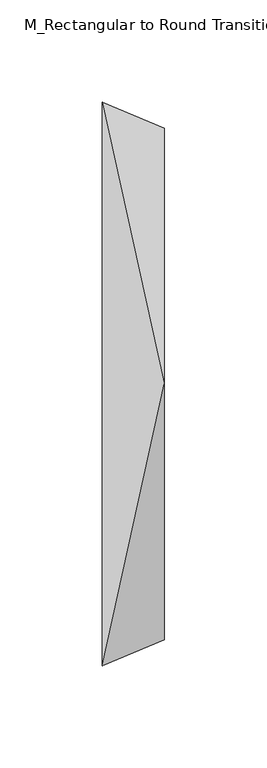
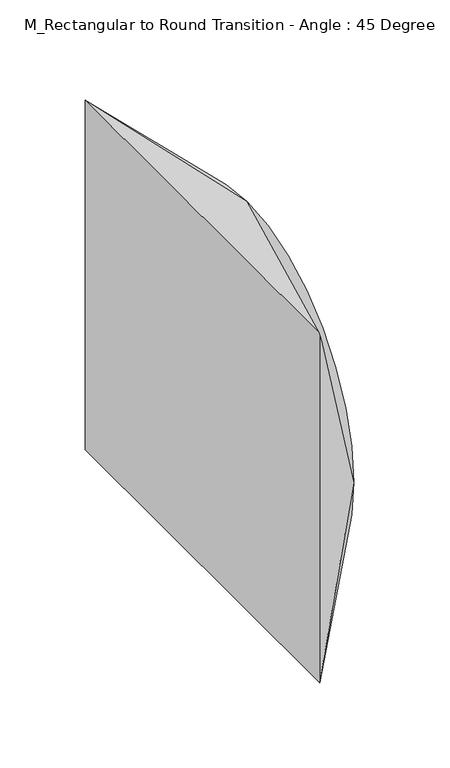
"""IFC4 building model written with IfcOpenShell, lengths in millimetres: duct fitting geometry, M_Rectangular to Round Transition - Angle : 45 Degree."""

from ifc_helpers import new_model, si_unit, frame, origin, place, context, project, spatial, circle_curve, source, transform, mapped, element, save
from ifc_brep_helpers import plane_surface, spline_surface, advanced_brep


def m_rectangular_to_round_transition_angle_45_degree_e507fccd(model_context):
    return source(origin(), model_context, "Body", "AdvancedBrep", [
        advanced_brep(
        [(0.0, -137.5, -125.0), (0.0, -137.5, 125.0), (0.0, 137.5, 125.0), (0.0, 137.5, -125.0), (30.1776695, -125.0, 0.0), (30.1776695, 0.0, -125.0), (30.1776695, 125.0, 0.0), (30.1776695, 0.0, 125.0)],
        [
            (0, 1),
            (1, 2),
            (2, 3),
            (3, 0),
            (4, 5, circle_curve(frame((30.1776695, 0.0, 0.0), z_axis=(1.0, 0.0, 0.0), x_axis=(0.0, -1.0, 0.0)), 125.0)),
            (5, 6, circle_curve(frame((30.1776695, 0.0, 0.0), z_axis=(1.0, 0.0, 0.0), x_axis=(0.0, -1.0, 0.0)), 125.0)),
            (6, 7, circle_curve(frame((30.1776695, 0.0, 0.0), z_axis=(1.0, 0.0, 0.0), x_axis=(0.0, -1.0, 0.0)), 125.0)),
            (7, 4, circle_curve(frame((30.1776695, 0.0, 0.0), z_axis=(1.0, 0.0, 0.0), x_axis=(0.0, -1.0, 0.0)), 125.0)),
            (0, 4),
            (4, 1),
            (7, 1),
            (7, 2),
            (6, 2),
            (6, 3),
            (5, 3),
            (5, 0),
        ],
        [
            plane_surface(frame((0.0, 0.0, 0.0), z_axis=(-1.0, 0.0, 0.0), x_axis=(0.0, 1.0, 0.0))),
            plane_surface(frame((30.1776695, 0.0, 0.0), z_axis=(1.0, 0.0, 0.0), x_axis=(0.0, 1.0, 0.0))),
            plane_surface(frame((30.1776695, -125.0, 0.0), z_axis=(0.3826834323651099, -0.9238795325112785, 0.0), x_axis=(0.0, 0.0, 1.0))),
            spline_surface(2, 1, [[(30.1776695, -125.0, 0.0), (0.0, -137.5, 125.0)], [(30.1776695, -125.0, 125.0), (0.0, -137.5, 125.0)], [(30.1776695, 0.0, 125.0), (0.0, -137.5, 125.0)]], [3, 3], [2, 2], [0.0, 1.0], [0.0, 1.0], weights=[[1.0, 1.0], [0.7071067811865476, 0.7071067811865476], [1.0, 1.0]]),
            plane_surface(frame((30.1776695, 0.0, 125.0), z_axis=(0.0, 0.0, 1.0), x_axis=(0.0, 1.0, 0.0))),
            spline_surface(2, 1, [[(30.1776695, 0.0, 125.0), (0.0, 137.5, 125.0)], [(30.1776695, 125.0, 125.0), (0.0, 137.5, 125.0)], [(30.1776695, 125.0, 0.0), (0.0, 137.5, 125.0)]], [3, 3], [2, 2], [0.0, 1.0], [0.0, 1.0], weights=[[1.0, 1.0], [0.7071067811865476, 0.7071067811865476], [1.0, 1.0]]),
            plane_surface(frame((30.1776695, 125.0, 0.0), z_axis=(0.38268343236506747, 0.9238795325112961, 0.0), x_axis=(0.0, 0.0, -1.0))),
            spline_surface(2, 1, [[(30.1776695, 125.0, 0.0), (0.0, 137.5, -125.0)], [(30.1776695, 125.0, -125.0), (0.0, 137.5, -125.0)], [(30.1776695, 0.0, -125.0), (0.0, 137.5, -125.0)]], [3, 3], [2, 2], [0.0, 1.0], [0.0, 1.0], weights=[[1.0, 1.0], [0.7071067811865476, 0.7071067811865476], [1.0, 1.0]]),
            plane_surface(frame((30.1776695, 0.0, -125.0), z_axis=(0.0, 0.0, -1.0), x_axis=(0.0, -1.0, 0.0))),
            spline_surface(2, 1, [[(30.1776695, 0.0, -125.0), (0.0, -137.5, -125.0)], [(30.1776695, -125.0, -125.0), (0.0, -137.5, -125.0)], [(30.1776695, -125.0, 0.0), (0.0, -137.5, -125.0)]], [3, 3], [2, 2], [0.0, 1.0], [0.0, 1.0], weights=[[1.0, 1.0], [0.7071067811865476, 0.7071067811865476], [1.0, 1.0]]),
        ],
        [
            (0, [[1, 2, 3, 4]]),
            (1, [[5, 6, 7, 8]]),
            (2, [[-1, 9, 10]]),
            (3, [[-8, 11, -10]]),
            (4, [[-2, -11, 12]]),
            (5, [[-7, 13, -12]]),
            (6, [[-3, -13, 14]]),
            (7, [[-6, 15, -14]]),
            (8, [[-4, -15, 16]]),
            (9, [[-5, -9, -16]]),
        ],
    ),
        advanced_brep(
        [(0.0, -137.5, -125.0), (0.0, -137.5, 125.0), (0.0, 137.5, 125.0), (0.0, 137.5, -125.0), (30.1776695, -125.0, 0.0), (30.1776695, 0.0, -125.0), (30.1776695, 125.0, 0.0), (30.1776695, 0.0, 125.0)],
        [
            (0, 1),
            (1, 2),
            (2, 3),
            (3, 0),
            (4, 5, circle_curve(frame((30.1776695, 0.0, 0.0), z_axis=(1.0, 0.0, 0.0), x_axis=(0.0, -1.0, 0.0)), 125.0)),
            (5, 6, circle_curve(frame((30.1776695, 0.0, 0.0), z_axis=(1.0, 0.0, 0.0), x_axis=(0.0, -1.0, 0.0)), 125.0)),
            (6, 7, circle_curve(frame((30.1776695, 0.0, 0.0), z_axis=(1.0, 0.0, 0.0), x_axis=(0.0, -1.0, 0.0)), 125.0)),
            (7, 4, circle_curve(frame((30.1776695, 0.0, 0.0), z_axis=(1.0, 0.0, 0.0), x_axis=(0.0, -1.0, 0.0)), 125.0)),
            (0, 4),
            (4, 1),
            (7, 1),
            (7, 2),
            (6, 2),
            (6, 3),
            (5, 3),
            (5, 0),
        ],
        [
            plane_surface(frame((0.0, 0.0, 0.0), z_axis=(-1.0, 0.0, 0.0), x_axis=(0.0, 1.0, 0.0))),
            plane_surface(frame((30.1776695, 0.0, 0.0), z_axis=(1.0, 0.0, 0.0), x_axis=(0.0, 1.0, 0.0))),
            plane_surface(frame((30.1776695, -125.0, 0.0), z_axis=(0.3826834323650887, -0.9238795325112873, 0.0), x_axis=(0.0, 0.0, 1.0))),
            spline_surface(2, 1, [[(30.1776695, -125.0, 0.0), (0.0, -137.5, 125.0)], [(30.1776695, -125.0, 125.0), (0.0, -137.5, 125.0)], [(30.1776695, 0.0, 125.0), (0.0, -137.5, 125.0)]], [3, 3], [2, 2], [0.0, 1.0], [0.0, 1.0], weights=[[1.0, 1.0], [0.7071067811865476, 0.7071067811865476], [1.0, 1.0]]),
            plane_surface(frame((30.1776695, 0.0, 125.0), z_axis=(0.0, 0.0, 1.0), x_axis=(0.0, 1.0, 0.0))),
            spline_surface(2, 1, [[(30.1776695, 0.0, 125.0), (0.0, 137.5, 125.0)], [(30.1776695, 125.0, 125.0), (0.0, 137.5, 125.0)], [(30.1776695, 125.0, 0.0), (0.0, 137.5, 125.0)]], [3, 3], [2, 2], [0.0, 1.0], [0.0, 1.0], weights=[[1.0, 1.0], [0.7071067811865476, 0.7071067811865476], [1.0, 1.0]]),
            plane_surface(frame((30.1776695, 125.0, 0.0), z_axis=(0.38268343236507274, 0.9238795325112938, 0.0), x_axis=(0.0, 0.0, -1.0))),
            spline_surface(2, 1, [[(30.1776695, 125.0, 0.0), (0.0, 137.5, -125.0)], [(30.1776695, 125.0, -125.0), (0.0, 137.5, -125.0)], [(30.1776695, 0.0, -125.0), (0.0, 137.5, -125.0)]], [3, 3], [2, 2], [0.0, 1.0], [0.0, 1.0], weights=[[1.0, 1.0], [0.7071067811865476, 0.7071067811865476], [1.0, 1.0]]),
            plane_surface(frame((30.1776695, 0.0, -125.0), z_axis=(0.0, 0.0, -1.0), x_axis=(0.0, -1.0, 0.0))),
            spline_surface(2, 1, [[(30.1776695, 0.0, -125.0), (0.0, -137.5, -125.0)], [(30.1776695, -125.0, -125.0), (0.0, -137.5, -125.0)], [(30.1776695, -125.0, 0.0), (0.0, -137.5, -125.0)]], [3, 3], [2, 2], [0.0, 1.0], [0.0, 1.0], weights=[[1.0, 1.0], [0.7071067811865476, 0.7071067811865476], [1.0, 1.0]]),
        ],
        [
            (0, [[1, 2, 3, 4]]),
            (1, [[5, 6, 7, 8]]),
            (2, [[-1, 9, 10]]),
            (3, [[-8, 11, -10]]),
            (4, [[-2, -11, 12]]),
            (5, [[-7, 13, -12]]),
            (6, [[-3, -13, 14]]),
            (7, [[-6, 15, -14]]),
            (8, [[-4, -15, 16]]),
            (9, [[-5, -9, -16]]),
        ],
    ),
        advanced_brep(
        [(30.1776695, 0.0, 125.0), (30.1776695, -125.0, 0.0), (30.1776695, 0.0, -125.0), (30.1776695, 125.0, 0.0), (0.0, -137.5, 125.0), (0.0, 137.5, 125.0), (0.0, 137.5, -125.0), (0.0, -137.5, -125.0)],
        [
            (0, 1, circle_curve(frame((30.1776695, 0.0, 0.0), z_axis=(1.0, 0.0, 0.0), x_axis=(0.0, 1.0, 0.0)), 125.0)),
            (1, 2, circle_curve(frame((30.1776695, 0.0, 0.0), z_axis=(1.0, 0.0, 0.0), x_axis=(0.0, 1.0, 0.0)), 125.0)),
            (2, 3, circle_curve(frame((30.1776695, 0.0, 0.0), z_axis=(1.0, 0.0, 0.0), x_axis=(0.0, 1.0, 0.0)), 125.0)),
            (3, 0, circle_curve(frame((30.1776695, 0.0, 0.0), z_axis=(1.0, 0.0, 0.0), x_axis=(0.0, 1.0, 0.0)), 125.0)),
            (4, 5),
            (5, 6),
            (6, 7),
            (7, 4),
            (0, 4),
            (4, 1),
            (7, 1),
            (7, 2),
            (6, 2),
            (6, 3),
            (5, 3),
            (5, 0),
        ],
        [
            plane_surface(frame((30.1776695, 0.0, 0.0), z_axis=(1.0, 0.0, 0.0), x_axis=(0.0, 0.0, -1.0))),
            plane_surface(frame((0.0, 0.0, 0.0), z_axis=(-1.0, 0.0, 0.0), x_axis=(0.0, 0.0, -1.0))),
            spline_surface(2, 1, [[(0.0, -137.5, 125.0), (30.1776695, 0.0, 125.0)], [(0.0, -137.5, 125.0), (30.1776695, -125.0, 125.0)], [(0.0, -137.5, 125.0), (30.1776695, -125.0, 0.0)]], [3, 3], [2, 2], [0.0, 1.0], [0.0, 1.0], weights=[[1.0, 1.0], [0.7071067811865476, 0.7071067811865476], [1.0, 1.0]]),
            plane_surface(frame((0.0, -137.5, 0.0), z_axis=(0.38268343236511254, -0.9238795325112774, 0.0), x_axis=(0.0, 0.0, -1.0))),
            spline_surface(2, 1, [[(0.0, -137.5, -125.0), (30.1776695, -125.0, 0.0)], [(0.0, -137.5, -125.0), (30.1776695, -125.0, -125.0)], [(0.0, -137.5, -125.0), (30.1776695, 0.0, -125.0)]], [3, 3], [2, 2], [0.0, 1.0], [0.0, 1.0], weights=[[1.0, 1.0], [0.7071067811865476, 0.7071067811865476], [1.0, 1.0]]),
            plane_surface(frame((0.0, 0.0, -125.0), z_axis=(0.0, 0.0, -1.0), x_axis=(0.0, 1.0, 0.0))),
            spline_surface(2, 1, [[(0.0, 137.5, -125.0), (30.1776695, 0.0, -125.0)], [(0.0, 137.5, -125.0), (30.1776695, 125.0, -125.0)], [(0.0, 137.5, -125.0), (30.1776695, 125.0, 0.0)]], [3, 3], [2, 2], [0.0, 1.0], [0.0, 1.0], weights=[[1.0, 1.0], [0.7071067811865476, 0.7071067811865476], [1.0, 1.0]]),
            plane_surface(frame((0.0, 137.5, 0.0), z_axis=(0.38268343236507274, 0.9238795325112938, 0.0), x_axis=(0.0, 0.0, 1.0))),
            spline_surface(2, 1, [[(0.0, 137.5, 125.0), (30.1776695, 125.0, 0.0)], [(0.0, 137.5, 125.0), (30.1776695, 125.0, 125.0)], [(0.0, 137.5, 125.0), (30.1776695, 0.0, 125.0)]], [3, 3], [2, 2], [0.0, 1.0], [0.0, 1.0], weights=[[1.0, 1.0], [0.7071067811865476, 0.7071067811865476], [1.0, 1.0]]),
            plane_surface(frame((0.0, 0.0, 125.0), z_axis=(0.0, 0.0, 1.0), x_axis=(0.0, -1.0, 0.0))),
        ],
        [
            (0, [[1, 2, 3, 4]]),
            (1, [[5, 6, 7, 8]]),
            (2, [[-1, 9, 10]]),
            (3, [[-8, 11, -10]]),
            (4, [[-2, -11, 12]]),
            (5, [[-7, 13, -12]]),
            (6, [[-3, -13, 14]]),
            (7, [[-6, 15, -14]]),
            (8, [[-4, -15, 16]]),
            (9, [[-5, -9, -16]]),
        ],
    ),
    ])


if __name__ == "__main__":
    model = new_model("IFC4")
    model_context = context("Model", 3, world=origin())
    ifc_project = project(units=[si_unit("LENGTHUNIT", "METRE", prefix="MILLI")], contexts=[model_context])
    site = spatial("IfcSite", under=ifc_project)
    building = spatial("IfcBuilding", under=site)
    placement = place(None, origin())
    m_rectangular_to_round_transition_angle_45_degree_shape = m_rectangular_to_round_transition_angle_45_degree_e507fccd(model_context)
    element("IfcDuctFitting", 1, ObjectType="M_Rectangular to Round Transition - Angle : 45 Degree", at=placement, inside=building, context=model_context, shape_type="MappedRepresentation", body=[
        mapped(m_rectangular_to_round_transition_angle_45_degree_shape, transform((0.0, 0.0, 0.0), x_axis=(1.0, 0.0, 0.0), y_axis=(0.0, 1.0, 0.0), z_axis=(0.0, 0.0, 1.0))),
    ])
    save(model, "model.ifc")
